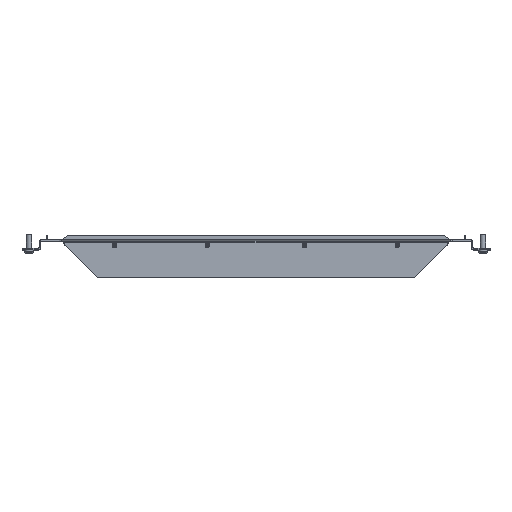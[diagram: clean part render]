
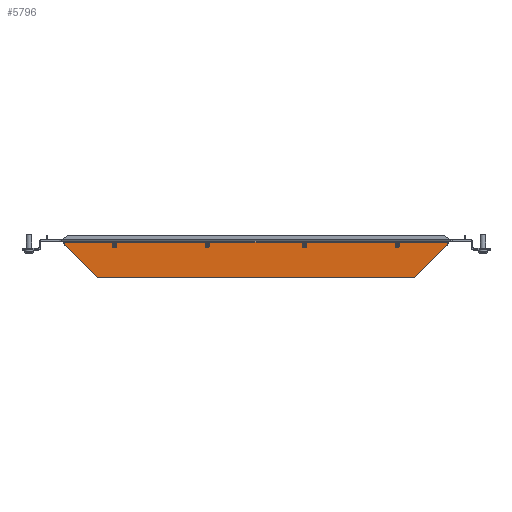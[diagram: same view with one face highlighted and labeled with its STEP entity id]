
A CAD part, top view. The second image highlights one B-rep face of the part: STEP entity #5796.
In plain terms, the highlighted planar face has unit normal (0, 0, 1).
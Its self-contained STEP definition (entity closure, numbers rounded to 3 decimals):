
#1032=CARTESIAN_POINT('',(-196.839,-2.362,-108.915));
#1346=DIRECTION('',(1.,0.,0.));
#1347=VECTOR('',#1346,393.678);
#1348=CARTESIAN_POINT('',(-196.839,-2.362,-108.915));
#1349=LINE('',#1348,#1347);
#1350=CARTESIAN_POINT('',(-191.85,-2.029,-108.915));
#1351=DIRECTION('',(0.,0.,-1.));
#1352=DIRECTION('',(-0.707,-0.707,0.));
#1353=AXIS2_PLACEMENT_3D('',#1350,#1351,#1352);
#1355=CARTESIAN_POINT('',(191.85,-2.029,-108.915));
#1356=DIRECTION('',(0.,0.,-1.));
#1357=DIRECTION('',(0.998,-0.067,0.));
#1358=AXIS2_PLACEMENT_3D('',#1355,#1356,#1357);
#1360=DIRECTION('',(-0.707,-0.707,0.));
#1361=VECTOR('',#1360,43.941);
#1362=CARTESIAN_POINT('',(195.386,-5.564,-108.915));
#1363=LINE('',#1362,#1361);
#1364=CARTESIAN_POINT('',(160.779,-33.1,-108.915));
#1365=DIRECTION('',(0.,0.,-1.));
#1366=DIRECTION('',(0.707,-0.707,0.));
#1367=AXIS2_PLACEMENT_3D('',#1364,#1365,#1366);
#1369=CARTESIAN_POINT('',(-160.779,-33.1,-108.915));
#1370=DIRECTION('',(0.,0.,-1.));
#1371=DIRECTION('',(0.,-1.,0.));
#1372=AXIS2_PLACEMENT_3D('',#1369,#1370,#1371);
#1374=DIRECTION('',(-0.707,0.707,0.));
#1375=VECTOR('',#1374,43.941);
#1376=CARTESIAN_POINT('',(-164.314,-36.636,-108.915));
#1377=LINE('',#1376,#1375);
#1422=DIRECTION('',(-1.,0.,0.));
#1423=VECTOR('',#1422,321.558);
#1424=CARTESIAN_POINT('',(160.779,-38.1,-108.915));
#1425=LINE('',#1424,#1423);
#3899=CARTESIAN_POINT('',(195.386,-5.564,-108.915));
#3900=VERTEX_POINT('',#3899);
#3901=CARTESIAN_POINT('',(196.839,-2.362,-108.915));
#3902=VERTEX_POINT('',#3901);
#3907=VERTEX_POINT('',#1032);
#3908=CARTESIAN_POINT('',(-195.386,-5.564,-108.915));
#3909=VERTEX_POINT('',#3908);
#3912=CARTESIAN_POINT('',(-164.314,-36.636,-108.915));
#3913=VERTEX_POINT('',#3912);
#3914=CARTESIAN_POINT('',(-160.779,-38.1,-108.915));
#3915=VERTEX_POINT('',#3914);
#3916=CARTESIAN_POINT('',(160.779,-38.1,-108.915));
#3917=VERTEX_POINT('',#3916);
#3918=CARTESIAN_POINT('',(164.314,-36.636,-108.915));
#3919=VERTEX_POINT('',#3918);
#5776=CARTESIAN_POINT('',(0.,-20.231,-108.915));
#5777=DIRECTION('',(0.,0.,1.));
#5778=DIRECTION('',(1.,0.,0.));
#5779=AXIS2_PLACEMENT_3D('',#5776,#5777,#5778);
#5780=PLANE('',#5779);
#5781=ORIENTED_EDGE('',*,*,#5389,.T.);
#5782=ORIENTED_EDGE('',*,*,#5771,.T.);
#5783=ORIENTED_EDGE('',*,*,#5356,.T.);
#5785=ORIENTED_EDGE('',*,*,#5784,.T.);
#5787=ORIENTED_EDGE('',*,*,#5786,.T.);
#5789=ORIENTED_EDGE('',*,*,#5788,.T.);
#5791=ORIENTED_EDGE('',*,*,#5790,.T.);
#5793=ORIENTED_EDGE('',*,*,#5792,.T.);
#5794=EDGE_LOOP('',(#5781,#5782,#5783,#5785,#5787,#5789,#5791,#5793));
#5795=FACE_OUTER_BOUND('',#5794,.F.);
#5796=ADVANCED_FACE('',(#5795),#5780,.T.);
#1354=CIRCLE('',#1353,5.);
#1359=CIRCLE('',#1358,5.);
#1368=CIRCLE('',#1367,5.);
#1373=CIRCLE('',#1372,5.);
#5356=EDGE_CURVE('',#3902,#3900,#1359,.T.);
#5389=EDGE_CURVE('',#3909,#3907,#1354,.T.);
#5771=EDGE_CURVE('',#3907,#3902,#1349,.T.);
#5784=EDGE_CURVE('',#3900,#3919,#1363,.T.);
#5786=EDGE_CURVE('',#3919,#3917,#1368,.T.);
#5788=EDGE_CURVE('',#3917,#3915,#1425,.T.);
#5790=EDGE_CURVE('',#3915,#3913,#1373,.T.);
#5792=EDGE_CURVE('',#3913,#3909,#1377,.T.);
